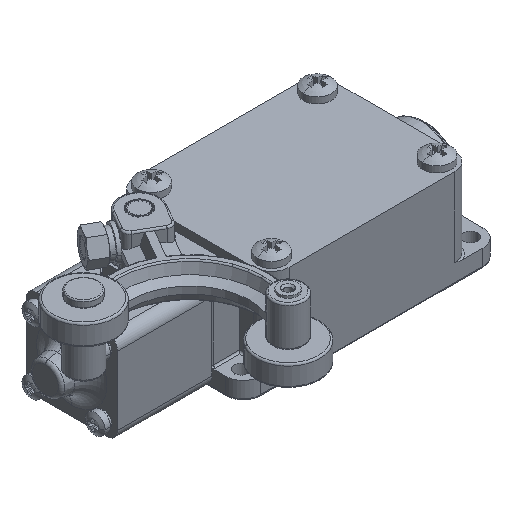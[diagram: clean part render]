
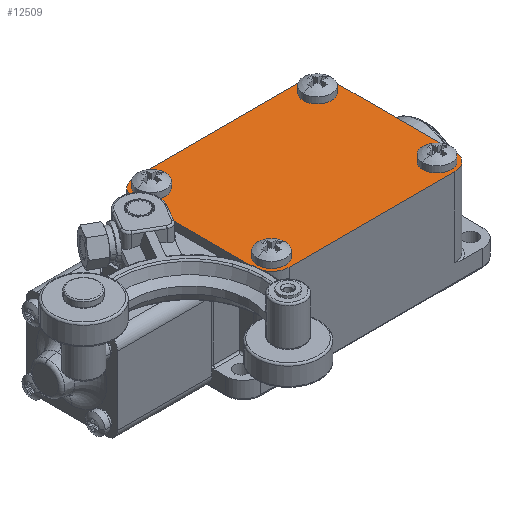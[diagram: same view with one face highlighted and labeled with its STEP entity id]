
A CAD part, isometric view. The second image highlights one B-rep face of the part: STEP entity #12509.
In plain terms, the highlighted planar face has unit normal (0, 0, 1).
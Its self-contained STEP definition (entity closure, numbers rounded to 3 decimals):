
#1822=DIRECTION('',(-1.,0.,0.));
#1823=VECTOR('',#1822,47.);
#1824=CARTESIAN_POINT('',(60.5,44.5,1.8));
#1825=LINE('',#1824,#1823);
#1851=DIRECTION('',(0.,1.,0.));
#1852=VECTOR('',#1851,34.);
#1853=CARTESIAN_POINT('',(65.5,5.5,1.8));
#1854=LINE('',#1853,#1852);
#1889=DIRECTION('',(1.,0.,0.));
#1890=VECTOR('',#1889,47.);
#1891=CARTESIAN_POINT('',(13.5,0.5,1.8));
#1892=LINE('',#1891,#1890);
#1905=CARTESIAN_POINT('',(13.5,5.5,1.8));
#1906=DIRECTION('',(0.,0.,-1.));
#1907=DIRECTION('',(-1.,0.,0.));
#1908=AXIS2_PLACEMENT_3D('',#1905,#1906,#1907);
#1910=CARTESIAN_POINT('',(13.5,5.5,1.8));
#1911=DIRECTION('',(0.,0.,-1.));
#1912=DIRECTION('',(1.,0.,0.));
#1913=AXIS2_PLACEMENT_3D('',#1910,#1911,#1912);
#1915=CARTESIAN_POINT('',(13.5,39.5,1.8));
#1916=DIRECTION('',(0.,0.,-1.));
#1917=DIRECTION('',(-1.,0.,0.));
#1918=AXIS2_PLACEMENT_3D('',#1915,#1916,#1917);
#1920=CARTESIAN_POINT('',(13.5,39.5,1.8));
#1921=DIRECTION('',(0.,0.,-1.));
#1922=DIRECTION('',(1.,0.,0.));
#1923=AXIS2_PLACEMENT_3D('',#1920,#1921,#1922);
#1925=CARTESIAN_POINT('',(60.5,5.5,1.8));
#1926=DIRECTION('',(0.,0.,-1.));
#1927=DIRECTION('',(-1.,0.,0.));
#1928=AXIS2_PLACEMENT_3D('',#1925,#1926,#1927);
#1930=CARTESIAN_POINT('',(60.5,5.5,1.8));
#1931=DIRECTION('',(0.,0.,-1.));
#1932=DIRECTION('',(1.,0.,0.));
#1933=AXIS2_PLACEMENT_3D('',#1930,#1931,#1932);
#1935=CARTESIAN_POINT('',(60.5,39.5,1.8));
#1936=DIRECTION('',(0.,0.,-1.));
#1937=DIRECTION('',(-1.,0.,0.));
#1938=AXIS2_PLACEMENT_3D('',#1935,#1936,#1937);
#1940=CARTESIAN_POINT('',(60.5,39.5,1.8));
#1941=DIRECTION('',(0.,0.,-1.));
#1942=DIRECTION('',(1.,0.,0.));
#1943=AXIS2_PLACEMENT_3D('',#1940,#1941,#1942);
#1945=CARTESIAN_POINT('',(13.5,5.5,1.8));
#1946=DIRECTION('',(0.,0.,1.));
#1947=DIRECTION('',(-1.,0.,0.));
#1948=AXIS2_PLACEMENT_3D('',#1945,#1946,#1947);
#1950=CARTESIAN_POINT('',(13.5,39.5,1.8));
#1951=DIRECTION('',(0.,0.,1.));
#1952=DIRECTION('',(0.,1.,0.));
#1953=AXIS2_PLACEMENT_3D('',#1950,#1951,#1952);
#1955=CARTESIAN_POINT('',(60.5,39.5,1.8));
#1956=DIRECTION('',(0.,0.,1.));
#1957=DIRECTION('',(1.,0.,0.));
#1958=AXIS2_PLACEMENT_3D('',#1955,#1956,#1957);
#1960=CARTESIAN_POINT('',(60.5,5.5,1.8));
#1961=DIRECTION('',(0.,0.,1.));
#1962=DIRECTION('',(0.,-1.,0.));
#1963=AXIS2_PLACEMENT_3D('',#1960,#1961,#1962);
#2754=DIRECTION('',(0.,-1.,0.));
#2755=VECTOR('',#2754,34.);
#2756=CARTESIAN_POINT('',(8.5,39.5,1.8));
#2757=LINE('',#2756,#2755);
#9544=CARTESIAN_POINT('',(9.5,5.5,1.8));
#9545=CARTESIAN_POINT('',(17.5,5.5,1.8));
#9546=VERTEX_POINT('',#9544);
#9547=VERTEX_POINT('',#9545);
#9580=CARTESIAN_POINT('',(9.5,39.5,1.8));
#9581=CARTESIAN_POINT('',(17.5,39.5,1.8));
#9582=VERTEX_POINT('',#9580);
#9583=VERTEX_POINT('',#9581);
#9616=CARTESIAN_POINT('',(56.5,5.5,1.8));
#9617=CARTESIAN_POINT('',(64.5,5.5,1.8));
#9618=VERTEX_POINT('',#9616);
#9619=VERTEX_POINT('',#9617);
#9652=CARTESIAN_POINT('',(56.5,39.5,1.8));
#9653=CARTESIAN_POINT('',(64.5,39.5,1.8));
#9654=VERTEX_POINT('',#9652);
#9655=VERTEX_POINT('',#9653);
#9812=CARTESIAN_POINT('',(60.5,0.5,1.8));
#9813=CARTESIAN_POINT('',(65.5,5.5,1.8));
#9814=VERTEX_POINT('',#9812);
#9815=VERTEX_POINT('',#9813);
#9816=CARTESIAN_POINT('',(65.5,39.5,1.8));
#9817=CARTESIAN_POINT('',(60.5,44.5,1.8));
#9818=VERTEX_POINT('',#9816);
#9819=VERTEX_POINT('',#9817);
#9820=CARTESIAN_POINT('',(13.5,44.5,1.8));
#9821=CARTESIAN_POINT('',(8.5,39.5,1.8));
#9822=VERTEX_POINT('',#9820);
#9823=VERTEX_POINT('',#9821);
#9824=CARTESIAN_POINT('',(8.5,5.5,1.8));
#9825=CARTESIAN_POINT('',(13.5,0.5,1.8));
#9826=VERTEX_POINT('',#9824);
#9827=VERTEX_POINT('',#9825);
#12468=CARTESIAN_POINT('',(37.,22.5,1.8));
#12469=DIRECTION('',(0.,0.,-1.));
#12470=DIRECTION('',(0.,-1.,0.));
#12471=AXIS2_PLACEMENT_3D('',#12468,#12469,#12470);
#12472=PLANE('',#12471);
#12473=ORIENTED_EDGE('',*,*,#12318,.F.);
#12475=ORIENTED_EDGE('',*,*,#12474,.F.);
#12477=ORIENTED_EDGE('',*,*,#12476,.F.);
#12478=ORIENTED_EDGE('',*,*,#12227,.F.);
#12479=ORIENTED_EDGE('',*,*,#12242,.F.);
#12480=ORIENTED_EDGE('',*,*,#12267,.F.);
#12481=ORIENTED_EDGE('',*,*,#12282,.F.);
#12482=ORIENTED_EDGE('',*,*,#12305,.F.);
#12483=EDGE_LOOP('',(#12473,#12475,#12477,#12478,#12479,#12480,#12481,#12482));
#12484=FACE_OUTER_BOUND('',#12483,.F.);
#12486=ORIENTED_EDGE('',*,*,#12485,.F.);
#12488=ORIENTED_EDGE('',*,*,#12487,.F.);
#12489=EDGE_LOOP('',(#12486,#12488));
#12490=FACE_BOUND('',#12489,.F.);
#12492=ORIENTED_EDGE('',*,*,#12491,.F.);
#12494=ORIENTED_EDGE('',*,*,#12493,.F.);
#12495=EDGE_LOOP('',(#12492,#12494));
#12496=FACE_BOUND('',#12495,.F.);
#12498=ORIENTED_EDGE('',*,*,#12497,.F.);
#12500=ORIENTED_EDGE('',*,*,#12499,.F.);
#12501=EDGE_LOOP('',(#12498,#12500));
#12502=FACE_BOUND('',#12501,.F.);
#12504=ORIENTED_EDGE('',*,*,#12503,.F.);
#12506=ORIENTED_EDGE('',*,*,#12505,.F.);
#12507=EDGE_LOOP('',(#12504,#12506));
#12508=FACE_BOUND('',#12507,.F.);
#12509=ADVANCED_FACE('',(#12484,#12490,#12496,#12502,#12508),#12472,.F.);
#1909=CIRCLE('',#1908,4.);
#1914=CIRCLE('',#1913,4.);
#1919=CIRCLE('',#1918,4.);
#1924=CIRCLE('',#1923,4.);
#1929=CIRCLE('',#1928,4.);
#1934=CIRCLE('',#1933,4.);
#1939=CIRCLE('',#1938,4.);
#1944=CIRCLE('',#1943,4.);
#1949=CIRCLE('',#1948,5.);
#1954=CIRCLE('',#1953,5.);
#1959=CIRCLE('',#1958,5.);
#1964=CIRCLE('',#1963,5.);
#12227=EDGE_CURVE('',#9822,#9823,#1954,.T.);
#12242=EDGE_CURVE('',#9819,#9822,#1825,.T.);
#12267=EDGE_CURVE('',#9818,#9819,#1959,.T.);
#12282=EDGE_CURVE('',#9815,#9818,#1854,.T.);
#12305=EDGE_CURVE('',#9814,#9815,#1964,.T.);
#12318=EDGE_CURVE('',#9827,#9814,#1892,.T.);
#12474=EDGE_CURVE('',#9826,#9827,#1949,.T.);
#12476=EDGE_CURVE('',#9823,#9826,#2757,.T.);
#12485=EDGE_CURVE('',#9546,#9547,#1909,.T.);
#12487=EDGE_CURVE('',#9547,#9546,#1914,.T.);
#12491=EDGE_CURVE('',#9582,#9583,#1919,.T.);
#12493=EDGE_CURVE('',#9583,#9582,#1924,.T.);
#12497=EDGE_CURVE('',#9618,#9619,#1929,.T.);
#12499=EDGE_CURVE('',#9619,#9618,#1934,.T.);
#12503=EDGE_CURVE('',#9654,#9655,#1939,.T.);
#12505=EDGE_CURVE('',#9655,#9654,#1944,.T.);
